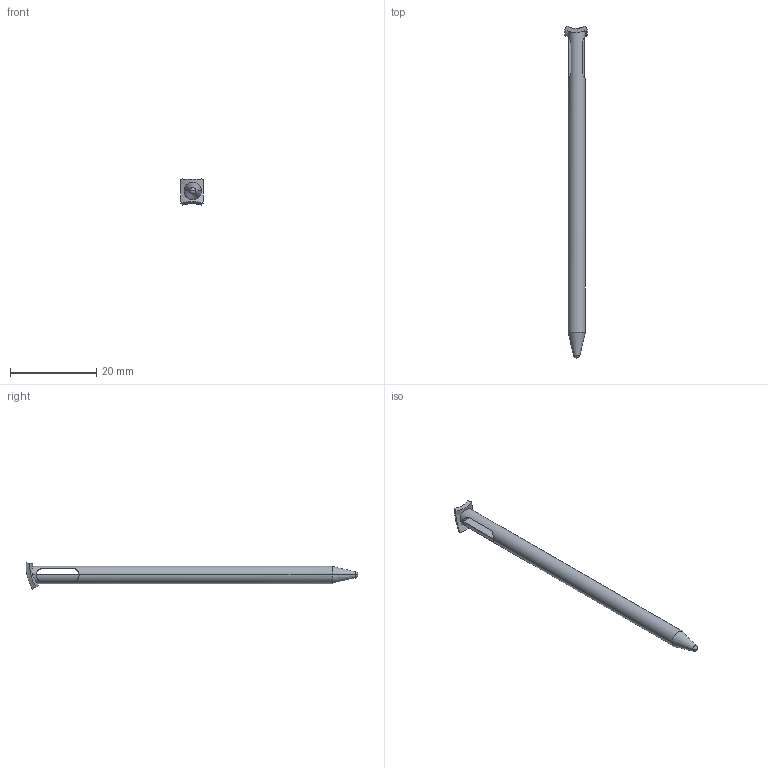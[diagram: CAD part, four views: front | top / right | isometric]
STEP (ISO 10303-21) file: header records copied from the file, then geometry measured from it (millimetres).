
FILE_DESCRIPTION((''),'2;1');
FILE_NAME('STYLUS','2026-05-29T23:50:05',('Paul Jenson Raja'),(''),'CREO PARAMETRIC BY PTC INC, 2025010','CREO PARAMETRIC BY PTC INC, 2025010','');
FILE_SCHEMA(('CONFIG_CONTROL_DESIGN'));
Length unit declared in the file: millimetre
Products named in the file (1): STYLUS
Bounding box: 5.27 x 77.11 x 6.05 mm (x, y, z)
Volume: 881.5 mm3; surface area: 1034.1 mm2
Topology: 1 solids, 1 shells, 20 faces, 56 edges, 35 vertices
Faces by surface type: cylinder 6, plane 6, cone 4, torus 2, sphere 2
Entity records: 755 total; most frequent: CARTESIAN_POINT 222, ORIENTED_EDGE 108, DIRECTION 94, EDGE_CURVE 54, VERTEX_POINT 35, AXIS2_PLACEMENT_3D 34, VECTOR 26, LINE 26
